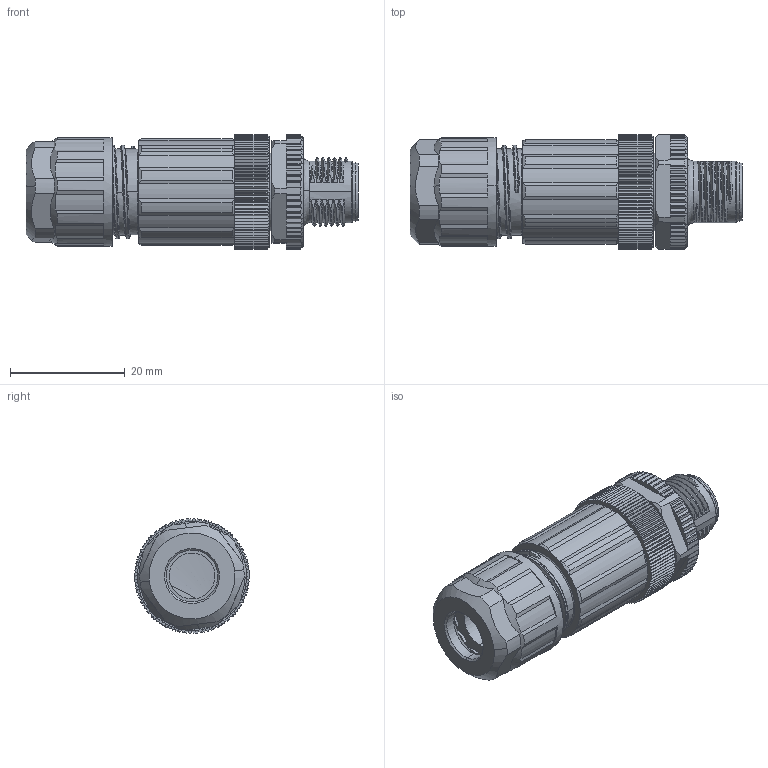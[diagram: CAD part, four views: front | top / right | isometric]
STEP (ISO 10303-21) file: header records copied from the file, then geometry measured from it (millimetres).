
FILE_DESCRIPTION (( 'STEP AP203' ), '1' );
FILE_NAME ('64F121.STEP', '2023-06-24T07:13:21', ( '' ), ( '' ), 'SwSTEP 2.0', 'SolidWorks 2016', '' );
FILE_SCHEMA (( 'CONFIG_CONTROL_DESIGN' ));
Length unit declared in the file: millimetre
Products named in the file (1): 64F121
Bounding box: 57.84 x 20 x 19.99 mm (x, y, z)
Volume: 11488.6 mm3; surface area: 8247.9 mm2
Topology: 1 solids, 5 shells, 1079 faces, 3004 edges, 1969 vertices
Faces by surface type: plane 524, cylinder 309, cone 170, bspline 65, sphere 8, torus 3
Entity records: 48721 total; most frequent: CARTESIAN_POINT 23282, ORIENTED_EDGE 5972, DIRECTION 4406, EDGE_CURVE 2986, VERTEX_POINT 1960, AXIS2_PLACEMENT_3D 1751, B_SPLINE_CURVE_WITH_KNOTS 1334, EDGE_LOOP 1130
